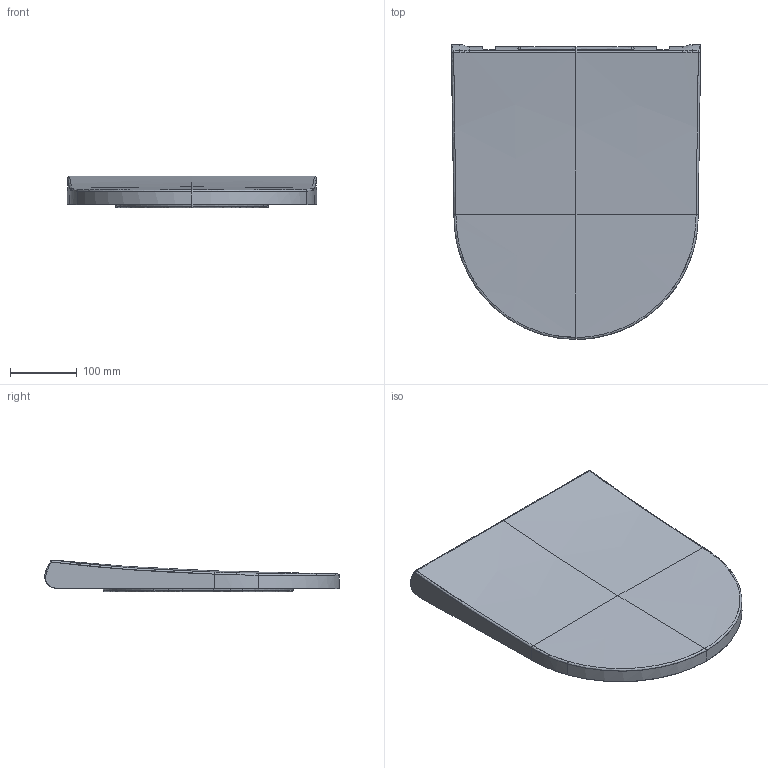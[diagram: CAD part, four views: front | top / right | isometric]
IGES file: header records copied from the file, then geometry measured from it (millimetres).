
Global section: file name: d:\users\matthias.isele\Desktop\3D\Bento\002659\3D\002659.igs; native system: Rhinoceros ( Sep 13 2016 ); preprocessor: Trout Lake IGES 012 Sep 13 2016; date: 221104.093819; units: millimetre
Bounding box: 373.04 x 441.23 x 47.76 mm (x, y, z)
Surface area: 563964.7 mm2 (no closed solid volume)
Topology: 0 solids, 0 shells, 663 faces, 16283 edges, 16282 vertices
Faces by surface type: bspline 663
